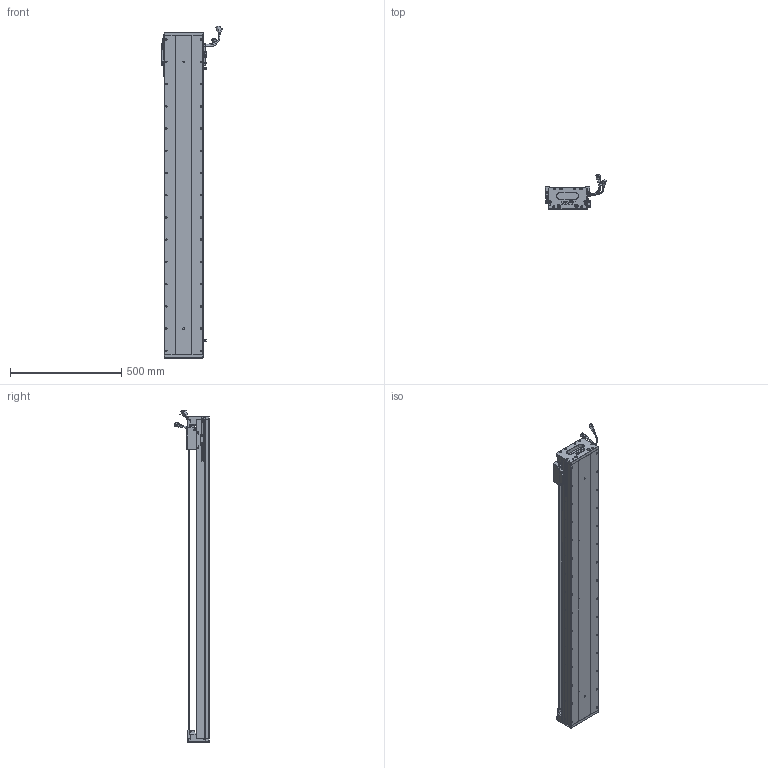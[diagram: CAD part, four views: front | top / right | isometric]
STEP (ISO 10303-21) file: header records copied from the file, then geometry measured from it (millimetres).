
FILE_DESCRIPTION (( 'STEP AP203' ), '1' );
FILE_NAME ('Z1-RY170D-1-L500-B-K.SLDASM_1250.step', '2021-05-17T08:52:45', ( '盈信电脑' ), ( '东莞市道滘镇水果街19号' ), 'SwSTEP 2.0', 'SolidWorks 2016', '' );
FILE_SCHEMA (( 'CONFIG_CONTROL_DESIGN' ));
Length unit declared in the file: millimetre
Products named in the file (36): SCREW-M1.6-1; HARNESS-Part-2; SCREW-M1.6-3; Z-RY170詩湍狟揤裔; SCREW-M1.6-2; Z1-RY170D-1-L500-B-K.SLDASM_1250; 080黍杅芛假蚾釱21遴; Z-RY170詩湍奻揤裔; SHIELDPLATE; Z1-RY170-L500耀郪菁釱_1250; SEAL-Part-1; HOLDER0; SCREW-M1.7-1; Z-170詩湍傷裔啣; Z1-RY170-L500詩湍145mm遵_1250; SCREW-M1.7; SCALE; RY170直线电机感应器672光电感应片; 榋妏寠巭燃_暯_M2_2; PSLH080_PSLF2; 140蚥薯蝶輸; 140雄赽晤鎢ん堤盄; COVER-Part-1; COVER; SCREW-M1.6; HARNESS; SCALE-Part-1; HARNESS-Part-1; 170-Z-臏賑輸盄裔(21遴); Z1-RY170臏賑輸(21遴); LABEL; 覜茼ん672; SCALE-Part-2; PBU_SHEET; SEAL; LABEL-Part-1
Assembly tree (41 placements, depth 4):
  Z1-RY170D-1-L500-B-K.SLDASM_1250
    Z1-RY170-L500耀郪菁釱_1250
    RY170直线电机感应器672光电感应片
    Z1-RY170臏賑輸(21遴)
    覜茼ん672  x3
    PSLH080_PSLF2
      SCALE
        SCALE-Part-1
        SCALE-Part-2
      HARNESS
        HARNESS-Part-1
        HARNESS-Part-2
      LABEL
        LABEL-Part-1
      COVER
        COVER-Part-1
      SEAL
        SEAL-Part-1
      榋妏寠巭燃_暯_M2_2
      SHIELDPLATE
      SCREW-M1.7
      SCREW-M1.7-1
      PBU_SHEET
      SCREW-M1.6
      SCREW-M1.6-1
      SCREW-M1.6-2
      SCREW-M1.6-3
      HOLDER0
    080黍杅芛假蚾釱21遴
    Z1-RY170-L500詩湍145mm遵_1250
    Z-170詩湍傷裔啣  x2
    Z-RY170詩湍奻揤裔  x2
    Z-RY170詩湍狟揤裔  x2
    140蚥薯蝶輸  x2
    170-Z-臏賑輸盄裔(21遴)
    140雄赽晤鎢ん堤盄
Bounding box: 275.34 x 158.11 x 1493.72 mm (x, y, z)
Volume: 7597195.4 mm3; surface area: 1892848.8 mm2
Topology: 36 solids, 36 shells, 3236 faces, 8787 edges, 5521 vertices
Faces by surface type: cylinder 1522, plane 1188, cone 404, torus 69, bspline 53
Entity records: 97391 total; most frequent: CARTESIAN_POINT 25926, ORIENTED_EDGE 14338, DIRECTION 13753, EDGE_CURVE 7169, AXIS2_PLACEMENT_3D 5022, VERTEX_POINT 4639, LINE 3709, VECTOR 3709
